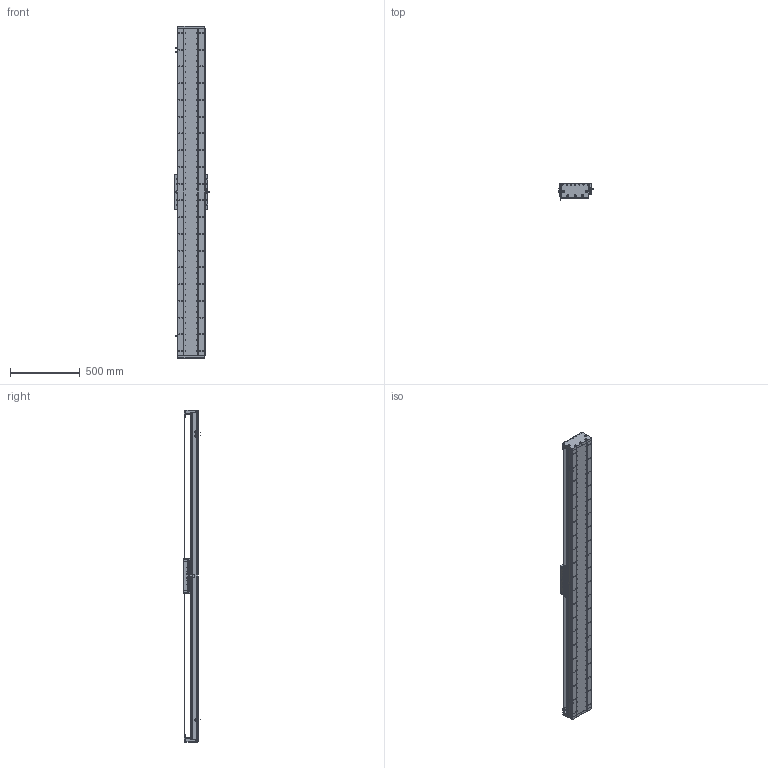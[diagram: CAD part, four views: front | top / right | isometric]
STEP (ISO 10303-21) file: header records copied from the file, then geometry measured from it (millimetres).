
FILE_DESCRIPTION (( 'STEP AP203' ), '1' );
FILE_NAME ('DA-C195-C3-T2040-C010-0.2 眻盄萇儂.STEP', '2025-08-15T01:34:58', ( '' ), ( '' ), 'SwSTEP 2.0', 'SolidWorks 2019', '' );
FILE_SCHEMA (( 'CONFIG_CONTROL_DESIGN' ));
Length unit declared in the file: millimetre
Products named in the file (15): LMT黍杅芛; DA-C195-C3-T2040-C010-0.2 眻盄萇儂; DA195詩湍菜輸; DA-C195-GD-DB-H-00 傷啣; 葩璃 DA95-GT-T-00; IU-CU195-L-00 菁釱(L2340); DA95-HXJ-00 遣喳砎蝶; CU195-C3賑輸-俋楷; DA195詩湍裔啣; IU-CU195-L 菁釱絳寢; DA195詩湍嶺輸; PM-T45ㄗ侂狟ㄘ; DA195詩湍郪璃; MS200 棠掑喜S315-T240; DA165-GYP-00 光电感应片(默认)
Assembly tree (29 placements, depth 3):
  DA-C195-C3-T2040-C010-0.2 眻盄萇儂
    DA195詩湍郪璃
      DA195詩湍菜輸  x2
      DA195詩湍裔啣
      DA195詩湍嶺輸  x2
      DA95-HXJ-00 遣喳砎蝶  x8
      DA-C195-GD-DB-H-00 傷啣  x2
    IU-CU195-L 菁釱絳寢
      IU-CU195-L-00 菁釱(L2340)
      葩璃 DA95-GT-T-00  x4
    LMT黍杅芛
    MS200 棠掑喜S315-T240
    PM-T45ㄗ侂狟ㄘ  x3
    DA165-GYP-00 光电感应片(默认)
    CU195-C3賑輸-俋楷
Bounding box: 248 x 115.45 x 2380 mm (x, y, z)
Volume: 14218896.7 mm3; surface area: 4156732.8 mm2
Topology: 86 solids, 118 shells, 4236 faces, 11823 edges, 7441 vertices
Faces by surface type: cylinder 2274, plane 1360, cone 514, torus 52, sphere 36
Entity records: 134553 total; most frequent: CARTESIAN_POINT 35828, ORIENTED_EDGE 20562, DIRECTION 19926, EDGE_CURVE 10281, AXIS2_PLACEMENT_3D 7477, VERTEX_POINT 6643, VECTOR 4972, LINE 4972
